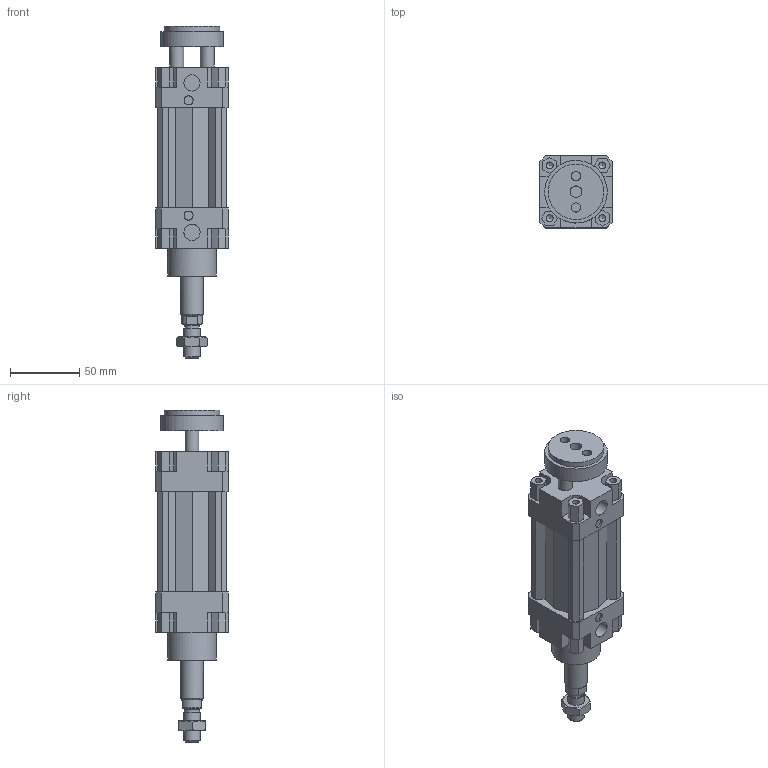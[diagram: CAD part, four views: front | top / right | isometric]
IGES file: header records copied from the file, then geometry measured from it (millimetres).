
Global section: file name: 132#_040_0025_02; native system: Autodesk Inventor 2014; preprocessor: unknown; author: A. Manieri; date: 20161006.154737; units: millimetre
Bounding box: 52 x 52 x 239 mm (x, y, z)
Volume: 303286.2 mm3; surface area: 82144.4 mm2
Topology: 3 solids, 3 shells, 220 faces, 590 edges, 398 vertices
Faces by surface type: bspline 220
